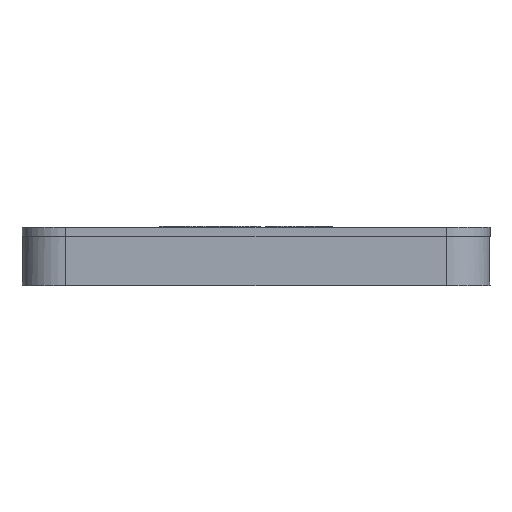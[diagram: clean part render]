
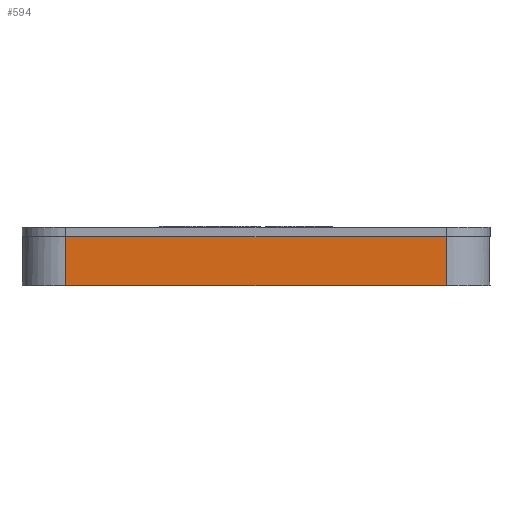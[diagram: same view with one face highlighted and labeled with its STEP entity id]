
A CAD part, left-side view. The second image highlights one B-rep face of the part: STEP entity #594.
In plain terms, the highlighted planar face has unit normal (-1, 0, 0).
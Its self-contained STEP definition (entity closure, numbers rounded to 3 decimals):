
#200=DIRECTION('',(0.,-1.,0.));
#201=VECTOR('',#200,65.);
#202=CARTESIAN_POINT('',(-121.,32.5,0.));
#203=LINE('',#202,#201);
#204=DIRECTION('',(0.,0.,1.));
#205=VECTOR('',#204,8.4);
#206=CARTESIAN_POINT('',(-121.,-32.5,-8.4));
#207=LINE('',#206,#205);
#208=DIRECTION('',(0.,-1.,0.));
#209=VECTOR('',#208,65.);
#210=CARTESIAN_POINT('',(-121.,32.5,-8.4));
#211=LINE('',#210,#209);
#212=DIRECTION('',(0.,0.,-1.));
#213=VECTOR('',#212,8.4);
#214=CARTESIAN_POINT('',(-121.,32.5,0.));
#215=LINE('',#214,#213);
#216=CARTESIAN_POINT('',(-121.,-32.5,-8.4));
#218=VERTEX_POINT('',#216);
#221=CARTESIAN_POINT('',(-121.,32.5,-8.4));
#223=VERTEX_POINT('',#221);
#240=CARTESIAN_POINT('',(-121.,32.5,0.));
#241=CARTESIAN_POINT('',(-121.,-32.5,0.));
#242=VERTEX_POINT('',#240);
#243=VERTEX_POINT('',#241);
#583=CARTESIAN_POINT('',(-121.,17.5,0.));
#584=DIRECTION('',(-1.,0.,0.));
#585=DIRECTION('',(0.,-1.,0.));
#586=AXIS2_PLACEMENT_3D('',#583,#584,#585);
#587=PLANE('',#586);
#588=ORIENTED_EDGE('',*,*,#384,.T.);
#589=ORIENTED_EDGE('',*,*,#327,.F.);
#590=ORIENTED_EDGE('',*,*,#301,.F.);
#591=ORIENTED_EDGE('',*,*,#370,.F.);
#592=EDGE_LOOP('',(#588,#589,#590,#591));
#593=FACE_OUTER_BOUND('',#592,.F.);
#594=ADVANCED_FACE('',(#593),#587,.T.);
#301=EDGE_CURVE('',#223,#218,#211,.T.);
#327=EDGE_CURVE('',#218,#243,#207,.T.);
#370=EDGE_CURVE('',#242,#223,#215,.T.);
#384=EDGE_CURVE('',#242,#243,#203,.T.);
